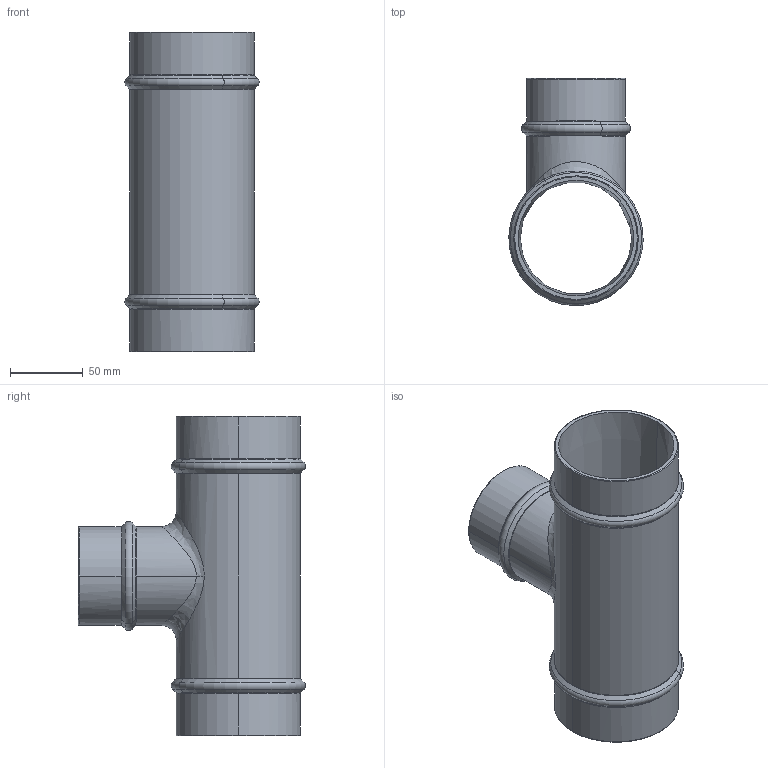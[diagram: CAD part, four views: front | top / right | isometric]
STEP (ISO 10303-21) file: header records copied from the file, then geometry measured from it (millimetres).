
FILE_DESCRIPTION(/* description */ (''),/* implementation_level */ '2;1');
FILE_NAME(/* name */ '7607_stp.stp',/* time_stamp */ '2025-06-20T11:26:34+08:00',/* author */ (''),/* organization */ (''),/* preprocessor_version */ 'ST-DEVELOPER v14',/* originating_system */ 'SIEMENS PLM Software NX 8.0',/* authorisation */ '');
FILE_SCHEMA (('AP203_CONFIGURATION_CONTROLLED_3D_DESIGN_OF_MECHANICAL_PARTS_AND_ASSEMBLIES_MIM_LF { 1 0 10303 403 2 1 2}'));
Length unit declared in the file: millimetre
Products named in the file (1): Admi144825784xdg
Bounding box: 92.35 x 156.17 x 220 mm (x, y, z)
Volume: 265240.7 mm3; surface area: 140930.1 mm2
Topology: 1 solids, 1 shells, 57 faces, 133 edges, 78 vertices
Faces by surface type: torus 24, cone 18, cylinder 10, plane 3, bspline 2
Entity records: 2709 total; most frequent: CARTESIAN_POINT 1254, DIRECTION 332, ORIENTED_EDGE 266, AXIS2_PLACEMENT_3D 151, EDGE_CURVE 133, CIRCLE 95, VERTEX_POINT 78, EDGE_LOOP 61
